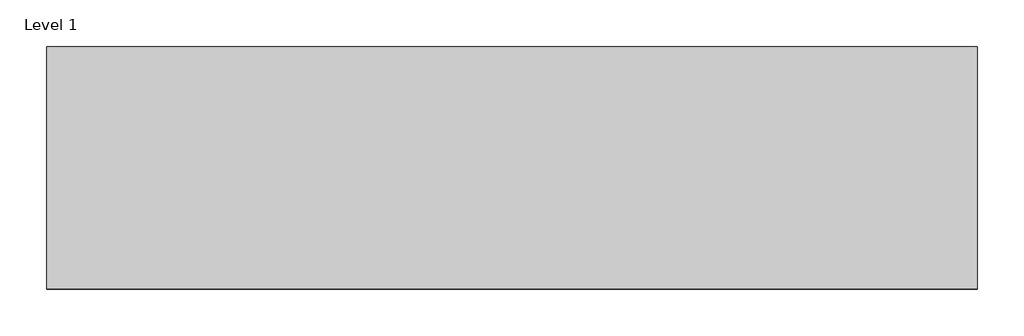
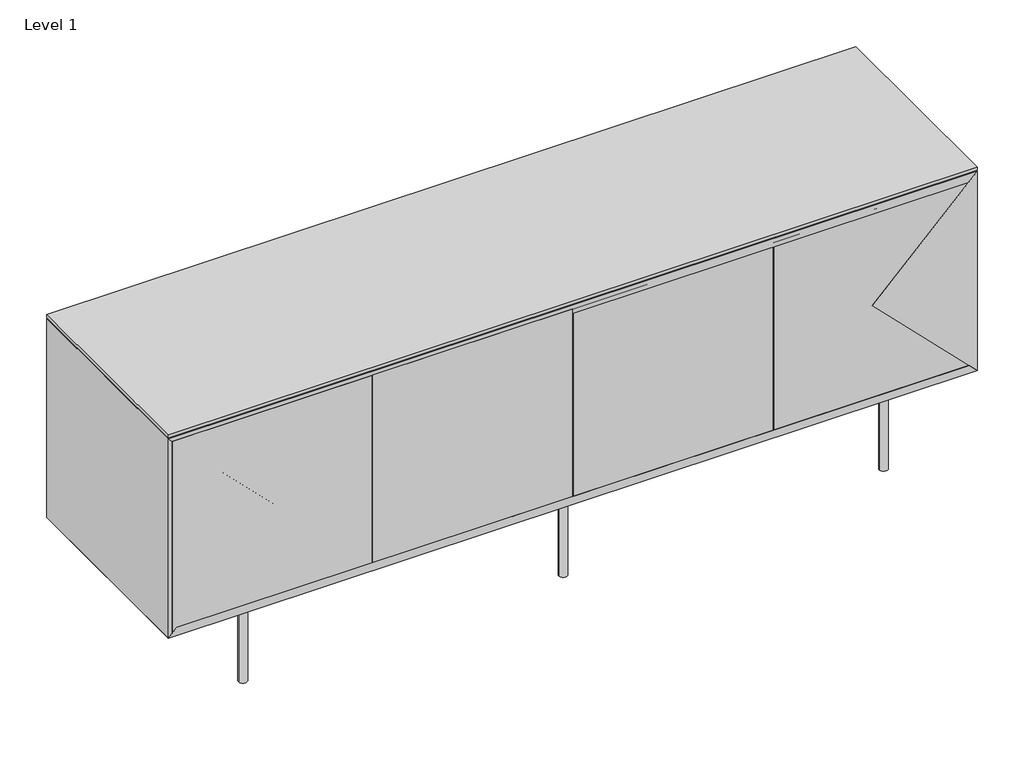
# One storey: 1 proxy.
"""IFC4 building model written with IfcOpenShell, lengths in millimetres."""

from ifc_helpers import new_model, si_unit, origin, place, context, project, spatial, transform, mapped, element, save
from components import generic_models_f2650148

model = new_model("IFC4")

# Units and contexts
model_context = context("Model", 3, world=origin())
ifc_project = project(units=[si_unit("LENGTHUNIT", "METRE", prefix="MILLI")], contexts=[model_context])

# Site, building, storey
site = spatial("IfcSite", under=ifc_project)
building = spatial("IfcBuilding", under=site)
storey = spatial("IfcBuildingStorey", under=building, Name="Level 1", Elevation=0.0)

# Proxy
placement = place(None, origin())
generic_models_shape = generic_models_f2650148(model_context)
element("IfcBuildingElementProxy", 1, Name="PARAGON^CREDENZA 3_35x96 4 DOORS W TOP-PARTS SOLID", ObjectType="PARAGON^CREDENZA 3_35x96 4 DOORS W TOP-PARTS SOLID", at=placement, inside=storey, context=model_context, shape_type="MappedRepresentation", body=[
    mapped(generic_models_shape, transform((0.0, 0.0, 254.0), x_axis=(1.0, 0.0, 0.0), y_axis=(0.0, 0.0, 1.0), z_axis=(0.0, -1.0, 0.0))),
])

save(model, "model.ifc")
